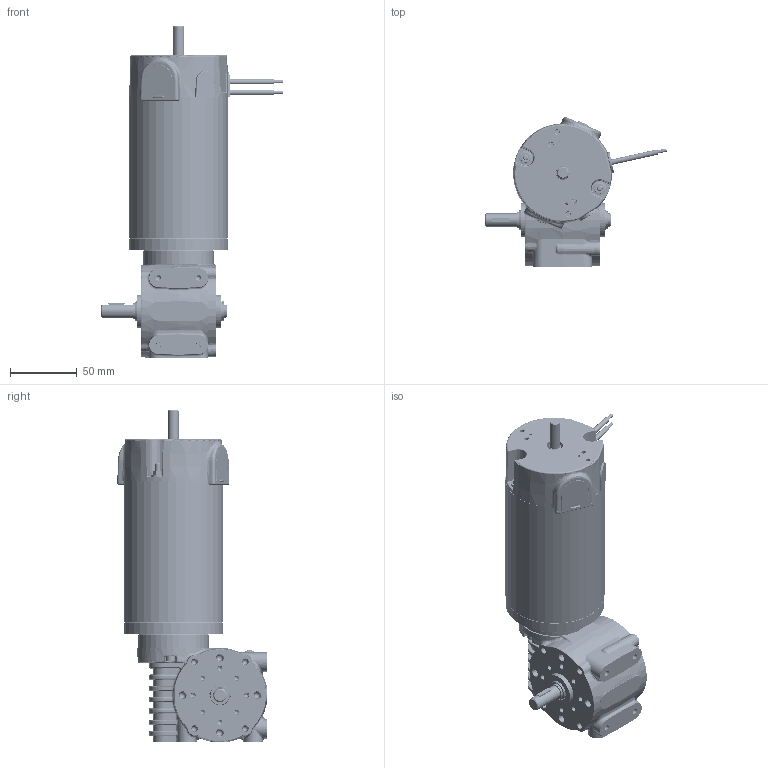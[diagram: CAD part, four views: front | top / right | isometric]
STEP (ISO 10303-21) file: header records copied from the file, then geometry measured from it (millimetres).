
FILE_DESCRIPTION (( 'STEP AP214' ), '1' );
FILE_NAME ('BRx70-60-GB80 - Shaft.STEP', '2025-04-29T07:44:50', ( '' ), ( '' ), 'SwSTEP 2.0', 'SolidWorks 2023', '' );
FILE_SCHEMA (( 'AUTOMOTIVE_DESIGN' ));
Length unit declared in the file: millimetre
Products named in the file (1): BRx70-60-GB80 - Shaft
Bounding box: 136.02 x 111.85 x 248.5 mm (x, y, z)
Volume: 465105.1 mm3; surface area: 215476.9 mm2
Topology: 46 solids, 46 shells, 4446 faces, 11168 edges, 6828 vertices
Faces by surface type: cylinder 1846, plane 860, bspline 617, cone 568, torus 483, sphere 72
Entity records: 217407 total; most frequent: CARTESIAN_POINT 65873, ORIENTED_EDGE 22008, DIRECTION 21321, EDGE_CURVE 11004, AXIS2_PLACEMENT_3D 8769, VERTEX_POINT 6828, CIRCLE 4939, EDGE_LOOP 4724
